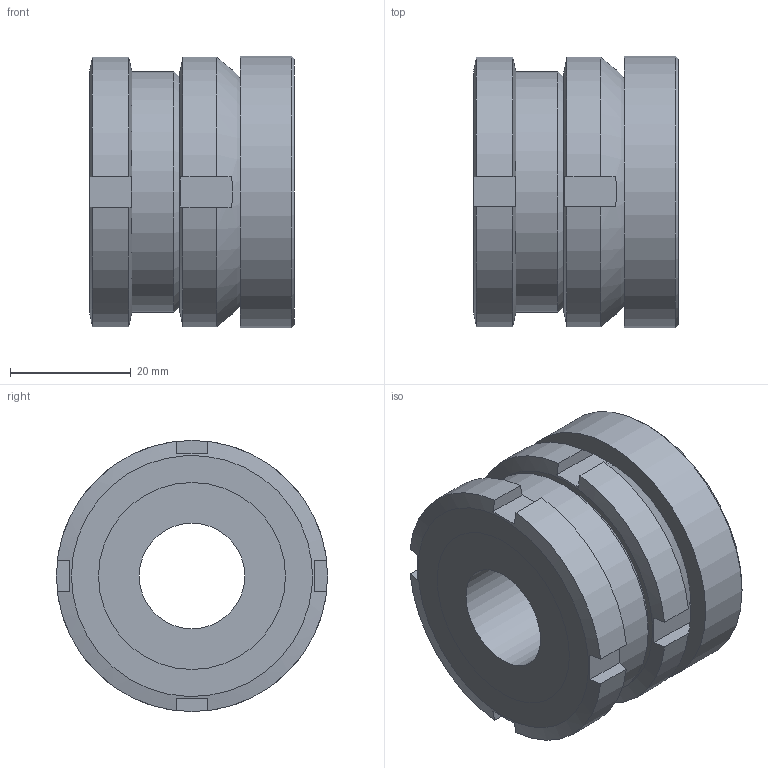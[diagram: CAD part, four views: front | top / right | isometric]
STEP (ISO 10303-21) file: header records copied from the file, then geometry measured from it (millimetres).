
FILE_DESCRIPTION( ( 'STEP AP203' ), '1' );
FILE_NAME( 'C:/Temp/Ganter_Step_05_03_2020/data/3_2/gn350_2/gn_350_2_ni/Stainless Steel-Levelling set GN 350.2-45-17,5-34-NI (0-0).stp', '2020-03-13T05:28:10', ( 'License CC BY-ND 4.0' ), ( 'CADENAS' ), ' ', 'PARTsolutions', ' ' );
FILE_SCHEMA( ( 'CONFIG_CONTROL_DESIGN' ) );
Length unit declared in the file: millimetre
Products named in the file (4): Stainless Steel-Levelling set GN 350.2-45-17,5-34-NI (0-0); _Levelling set GN 350.2-45-17,5-34-ST-G; _Levelling set GN 350.2-45-17,5-34-ST-K; _Levelling set GN 350.2-45-17,5-34-ST-P(0)
Assembly tree (3 placements, depth 2):
  Stainless Steel-Levelling set GN 350.2-45-17,5-34-NI (0-0)
    _Levelling set GN 350.2-45-17,5-34-ST-G
    _Levelling set GN 350.2-45-17,5-34-ST-K
    _Levelling set GN 350.2-45-17,5-34-ST-P(0)
Bounding box: 34 x 45 x 45 mm (x, y, z)
Volume: 40455 mm3; surface area: 16939.8 mm2
Topology: 3 solids, 3 shells, 62 faces, 149 edges, 99 vertices
Faces by surface type: plane 36, cylinder 19, cone 5, sphere 2
Full cylindrical faces by diameter (mm): 17.5 x1, 22 x1, 24.492 x1, 25.5 x1, 28.376 x1, 30 x2, 31 x2, 40 x1, 45 x1
Entity records: 1925 total; most frequent: CARTESIAN_POINT 462, DIRECTION 276, ORIENTED_EDGE 248, EDGE_CURVE 124, AXIS2_PLACEMENT_3D 122, EDGE_LOOP 92, VERTEX_POINT 92, FACE_OUTER_BOUND 75
